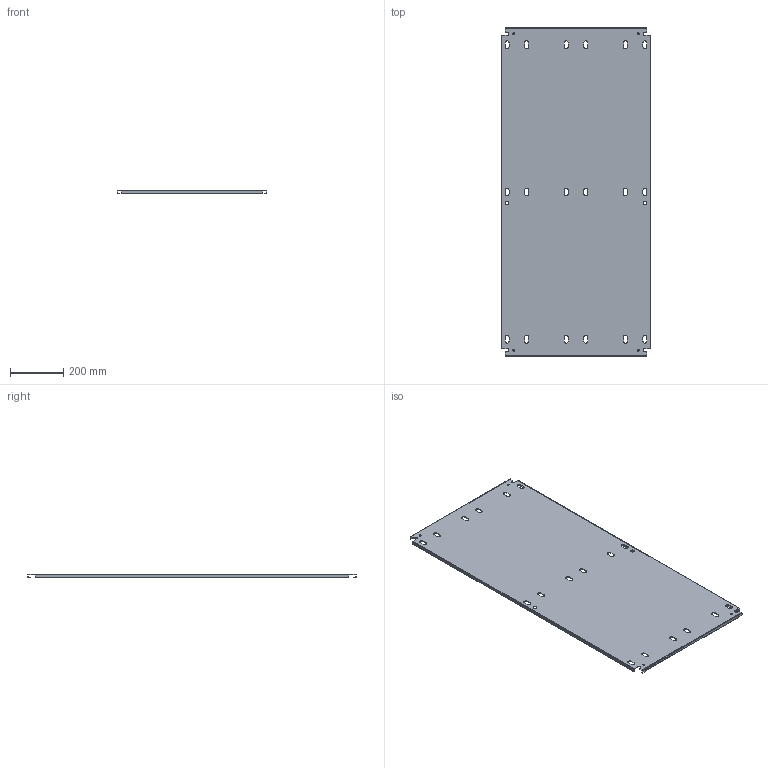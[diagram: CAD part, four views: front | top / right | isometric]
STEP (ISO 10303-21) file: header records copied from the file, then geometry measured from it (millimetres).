
FILE_DESCRIPTION(/* description */ ('1412BTSSCU 22.125" x 48.5" Right Inner Panel'),/* implementation_level */ '2;1');
FILE_NAME(/* name */ 'C:\Vault_Workspace\Inventor_Dwg\BoxCad\Result\1412BTSSCU112003DT\e-mail\3D\1412BTSSCU112003DTIP2.stp',/* time_stamp */ '2022-11-04T14:56:12-04:00',/* author */ ('BoxCad'),/* organization */ (''),/* preprocessor_version */ 'ST-DEVELOPER v18.1',/* originating_system */ 'Autodesk Inventor 2020',/* authorisation */ '');
FILE_SCHEMA (('AUTOMOTIVE_DESIGN { 1 0 10303 214 3 1 1 }'));
Length unit declared in the file: inch
Products named in the file (2): 1412BTSSCU112003DTIP2; 1412BTSSCU112003DTIP2-P
Assembly tree (1 placements, depth 2):
  1412BTSSCU112003DTIP2
    1412BTSSCU112003DTIP2-P
Bounding box: 561.98 x 1231.9 x 13 mm (x, y, z)
Volume: 1287475.2 mm3; surface area: 1500104.9 mm2
Topology: 1 solids, 1 shells, 192 faces, 570 edges, 380 vertices
Faces by surface type: plane 106, cylinder 86
Full cylindrical faces by diameter (mm): 7.366 x4, 12.7 x2
Entity records: 6631 total; most frequent: CARTESIAN_POINT 1145, ORIENTED_EDGE 1140, DIRECTION 1132, EDGE_CURVE 570, LINE 398, VECTOR 398, VERTEX_POINT 380, AXIS2_PLACEMENT_3D 367
